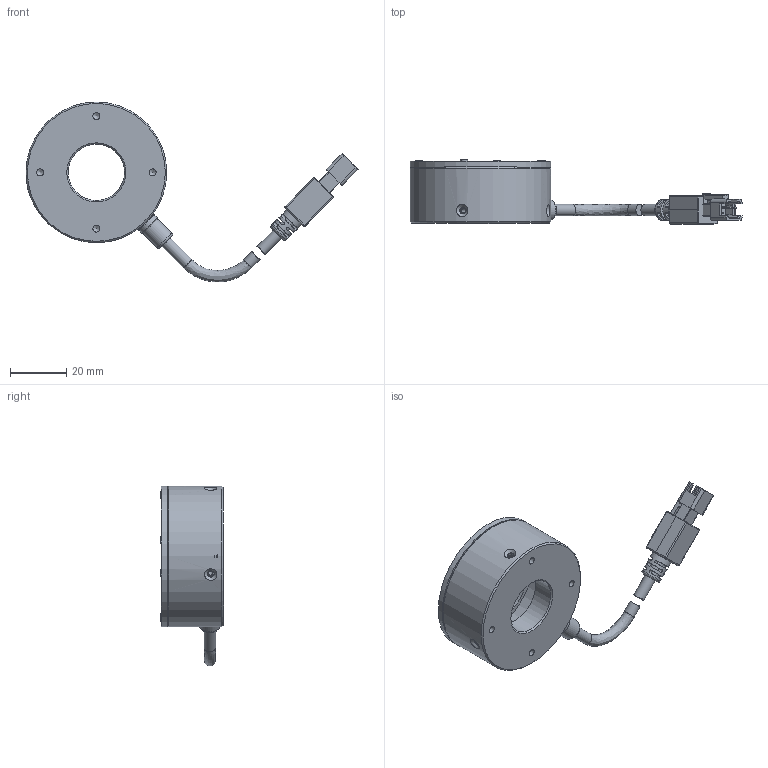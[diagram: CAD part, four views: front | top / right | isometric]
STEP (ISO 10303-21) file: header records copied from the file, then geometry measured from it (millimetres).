
FILE_DESCRIPTION (( 'STEP AP203' ), '1' );
FILE_NAME ('OPT-IRI5045-IR-V2.0U.STEP', '2025-02-15T00:08:53', ( '' ), ( '' ), 'SwSTEP 2.0', 'SolidWorks 2016', '' );
FILE_SCHEMA (( 'CONFIG_CONTROL_DESIGN' ));
Length unit declared in the file: millimetre
Products named in the file (1): OPT-IRI5045-IR-V2.0U
Bounding box: 117.97 x 22.7 x 63.95 mm (x, y, z)
Volume: 29965.7 mm3; surface area: 17206.8 mm2
Topology: 11 solids, 11 shells, 452 faces, 1137 edges, 725 vertices
Faces by surface type: plane 245, cylinder 134, cone 40, bspline 23, torus 6, sphere 4
Full cylindrical faces by diameter (mm): 1.05 x2, 1.1 x6, 1.4 x4, 1.6 x4, 1.7 x4, 2.4 x4, 2.5 x4, 2.6 x4, 3.5 x1, 4.1 x4, 5.8 x1, 7.5 x2, 8 x1, 20 x2, 41.8 x1, 50 x2
Entity records: 14397 total; most frequent: CARTESIAN_POINT 4223, DIRECTION 2030, ORIENTED_EDGE 1996, EDGE_CURVE 998, AXIS2_PLACEMENT_3D 696, VERTEX_POINT 684, VECTOR 638, LINE 638
